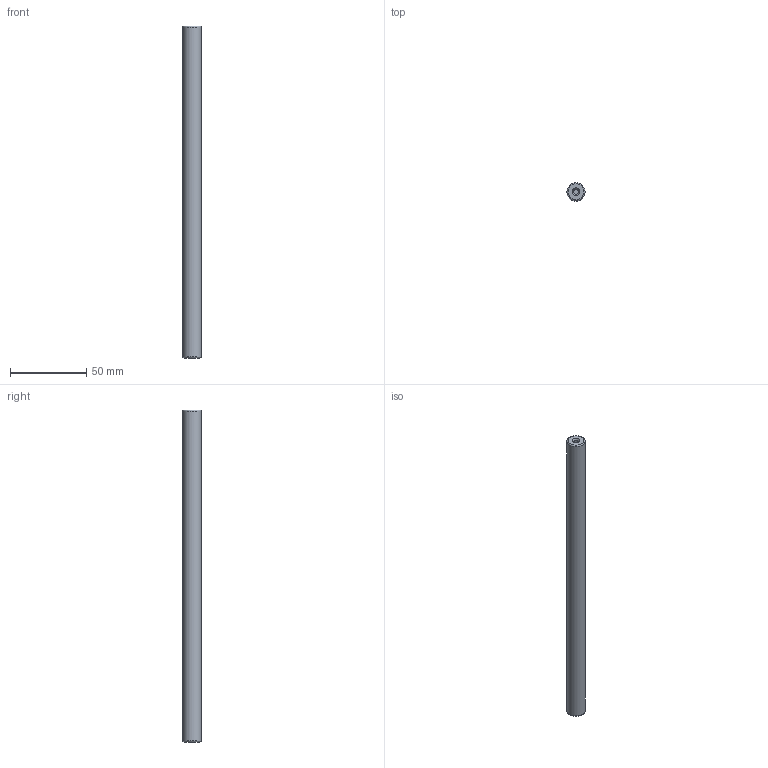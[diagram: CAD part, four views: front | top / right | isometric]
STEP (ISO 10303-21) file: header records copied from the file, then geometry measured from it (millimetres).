
FILE_DESCRIPTION(/* description */ (''),/* implementation_level */ '2;1');
FILE_NAME(/* name */ 'LM2070-120-Rod.stp',/* time_stamp */ '2017-09-06T14:10:03+02:00',/* author */ ('DR. FRITZ FAULHABER GmbH & Co. KG'),/* organization */ ('DR. FRITZ FAULHABER GmbH & Co. KG'),/* preprocessor_version */ 'ST-DEVELOPER v16',/* originating_system */ 'SIEMENS PLM Software NX 10.0',/* authorisation */ '');
FILE_SCHEMA (('AUTOMOTIVE_DESIGN { 1 0 10303 214 3 1 1 1 }'));
Length unit declared in the file: millimetre
Products named in the file (1): Alle_Motoren
Bounding box: 12 x 12 x 218 mm (x, y, z)
Volume: 24493.1 mm3; surface area: 8575.7 mm2
Topology: 1 solids, 1 shells, 11 faces, 20 edges, 13 vertices
Faces by surface type: plane 4, cylinder 3, cone 2, torus 2
Full cylindrical faces by diameter (mm): 3.3 x2, 12 x1
Entity records: 238 total; most frequent: DIRECTION 44, CARTESIAN_POINT 32, AXIS2_PLACEMENT_3D 22, EDGE_LOOP 20, ORIENTED_EDGE 20, FACE_BOUND 18, ADVANCED_FACE 11, VERTEX_POINT 10
